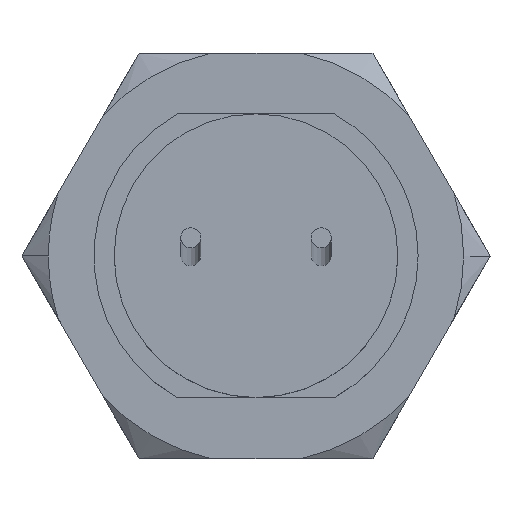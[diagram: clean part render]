
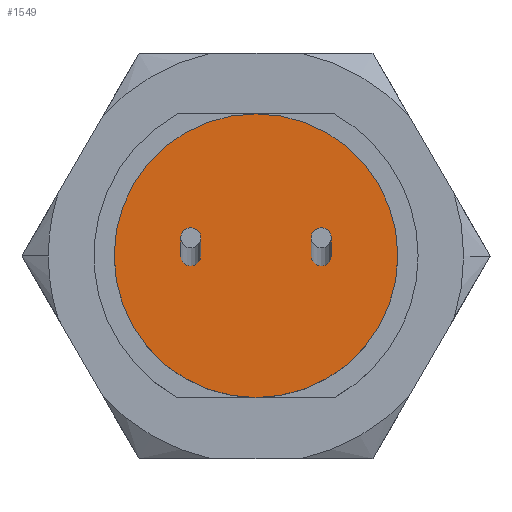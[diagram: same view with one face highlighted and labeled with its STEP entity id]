
A CAD part, top view. The second image highlights one B-rep face of the part: STEP entity #1549.
In plain terms, the highlighted planar face has unit normal (0, 0, 1).
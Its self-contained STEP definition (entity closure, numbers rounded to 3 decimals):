
#38 = DIRECTION ( 'NONE',  ( -1., 0., 0. ) ) ;
#77 = CIRCLE ( 'NONE', #2195, 0.5 ) ;
#78 = ORIENTED_EDGE ( 'NONE', *, *, #1911, .F. ) ;
#149 = DIRECTION ( 'NONE',  ( 0., 0., 1. ) ) ;
#177 = ORIENTED_EDGE ( 'NONE', *, *, #1680, .T. ) ;
#222 = DIRECTION ( 'NONE',  ( 0., 0., 1. ) ) ;
#274 = CARTESIAN_POINT ( 'NONE',  ( 3.725, 0., 22.2 ) ) ;
#301 = CIRCLE ( 'NONE', #987, 0.5 ) ;
#415 = CARTESIAN_POINT ( 'NONE',  ( -2.725, 0., 22.2 ) ) ;
#456 = ORIENTED_EDGE ( 'NONE', *, *, #2048, .F. ) ;
#518 = AXIS2_PLACEMENT_3D ( 'NONE', #1161, #149, #1335 ) ;
#547 = CARTESIAN_POINT ( 'NONE',  ( -3.225, 0., 22.2 ) ) ;
#562 = DIRECTION ( 'NONE',  ( 0., 0., 1. ) ) ;
#570 = VERTEX_POINT ( 'NONE', #274 ) ;
#578 = CARTESIAN_POINT ( 'NONE',  ( 0., 0., 22.2 ) ) ;
#631 = VERTEX_POINT ( 'NONE', #1972 ) ;
#644 = FACE_BOUND ( 'NONE', #932, .T. ) ;
#676 = CARTESIAN_POINT ( 'NONE',  ( 2.725, 0., 22.2 ) ) ;
#683 = EDGE_CURVE ( 'NONE', #1378, #2125, #1205, .T. ) ;
#700 = EDGE_CURVE ( 'NONE', #2125, #1378, #301, .T. ) ;
#721 = CIRCLE ( 'NONE', #926, 7. ) ;
#722 = DIRECTION ( 'NONE',  ( -1., 0., 0. ) ) ;
#744 = AXIS2_PLACEMENT_3D ( 'NONE', #1240, #222, #1435 ) ;
#750 = DIRECTION ( 'NONE',  ( 1., 0., 0. ) ) ;
#764 = DIRECTION ( 'NONE',  ( 0., 0., -1. ) ) ;
#893 = CARTESIAN_POINT ( 'NONE',  ( -3.725, 0., 22.2 ) ) ;
#926 = AXIS2_PLACEMENT_3D ( 'NONE', #578, #1831, #750 ) ;
#932 = EDGE_LOOP ( 'NONE', ( #78, #456 ) ) ;
#987 = AXIS2_PLACEMENT_3D ( 'NONE', #547, #1802, #722 ) ;
#1042 = FACE_BOUND ( 'NONE', #1268, .T. ) ;
#1050 = DIRECTION ( 'NONE',  ( 0., 0., 1. ) ) ;
#1084 = CARTESIAN_POINT ( 'NONE',  ( 7., 0., 22.2 ) ) ;
#1102 = AXIS2_PLACEMENT_3D ( 'NONE', #1639, #562, #1816 ) ;
#1118 = EDGE_LOOP ( 'NONE', ( #2035, #177 ) ) ;
#1161 = CARTESIAN_POINT ( 'NONE',  ( 0., 0., 22.2 ) ) ;
#1205 = CIRCLE ( 'NONE', #744, 0.5 ) ;
#1240 = CARTESIAN_POINT ( 'NONE',  ( -3.225, 0., 22.2 ) ) ;
#1268 = EDGE_LOOP ( 'NONE', ( #1845, #1321 ) ) ;
#1321 = ORIENTED_EDGE ( 'NONE', *, *, #683, .F. ) ;
#1335 = DIRECTION ( 'NONE',  ( 1., 0., 0. ) ) ;
#1378 = VERTEX_POINT ( 'NONE', #415 ) ;
#1415 = CIRCLE ( 'NONE', #518, 7. ) ;
#1435 = DIRECTION ( 'NONE',  ( -1., 0., 0. ) ) ;
#1525 = VERTEX_POINT ( 'NONE', #1084 ) ;
#1549 = ADVANCED_FACE ( 'NONE', ( #1042, #644, #2030 ), #1668, .F. ) ;
#1631 = EDGE_CURVE ( 'NONE', #1525, #631, #1415, .T. ) ;
#1639 = CARTESIAN_POINT ( 'NONE',  ( 3.225, 0., 22.2 ) ) ;
#1668 = PLANE ( 'NONE',  #2123 ) ;
#1680 = EDGE_CURVE ( 'NONE', #631, #1525, #721, .T. ) ;
#1802 = DIRECTION ( 'NONE',  ( 0., 0., 1. ) ) ;
#1816 = DIRECTION ( 'NONE',  ( -1., 0., 0. ) ) ;
#1831 = DIRECTION ( 'NONE',  ( 0., 0., 1. ) ) ;
#1845 = ORIENTED_EDGE ( 'NONE', *, *, #700, .F. ) ;
#1851 = CARTESIAN_POINT ( 'NONE',  ( 7.084, -7.084, 22.2 ) ) ;
#1911 = EDGE_CURVE ( 'NONE', #1993, #570, #1956, .T. ) ;
#1956 = CIRCLE ( 'NONE', #1102, 0.5 ) ;
#1972 = CARTESIAN_POINT ( 'NONE',  ( -7., 0., 22.2 ) ) ;
#1993 = VERTEX_POINT ( 'NONE', #676 ) ;
#2030 = FACE_OUTER_BOUND ( 'NONE', #1118, .T. ) ;
#2035 = ORIENTED_EDGE ( 'NONE', *, *, #1631, .T. ) ;
#2039 = DIRECTION ( 'NONE',  ( -1., 0., 0. ) ) ;
#2048 = EDGE_CURVE ( 'NONE', #570, #1993, #77, .T. ) ;
#2123 = AXIS2_PLACEMENT_3D ( 'NONE', #1851, #764, #2039 ) ;
#2125 = VERTEX_POINT ( 'NONE', #893 ) ;
#2138 = CARTESIAN_POINT ( 'NONE',  ( 3.225, 0., 22.2 ) ) ;
#2195 = AXIS2_PLACEMENT_3D ( 'NONE', #2138, #1050, #38 ) ;
